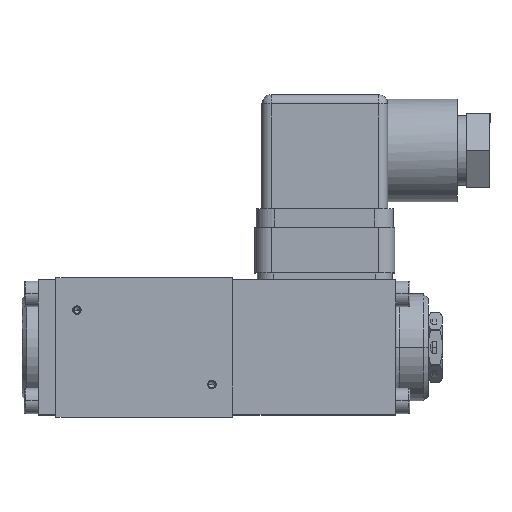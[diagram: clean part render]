
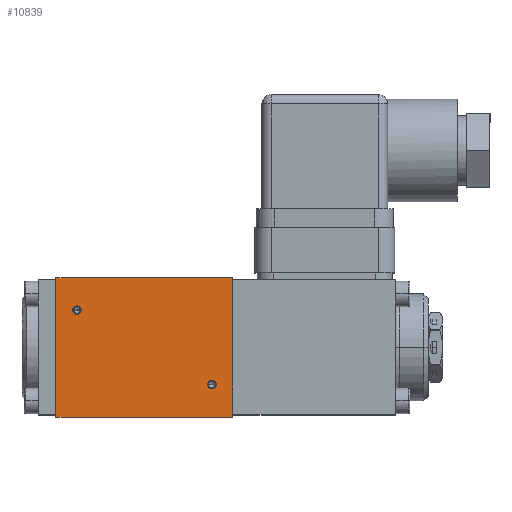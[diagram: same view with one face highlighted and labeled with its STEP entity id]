
A CAD part, top view. The second image highlights one B-rep face of the part: STEP entity #10839.
In plain terms, the highlighted planar face has unit normal (0, 0, 1).
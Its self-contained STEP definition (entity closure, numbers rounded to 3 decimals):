
#35 = ORIENTED_EDGE ( 'NONE', *, *, #38874, .F. ) ;
#768 = CIRCLE ( 'NONE', #1355, 0.9 ) ;
#1005 = ORIENTED_EDGE ( 'NONE', *, *, #32694, .F. ) ;
#1110 = ORIENTED_EDGE ( 'NONE', *, *, #26786, .F. ) ;
#1354 = CARTESIAN_POINT ( 'NONE',  ( 38.424, 30., 0. ) ) ;
#1355 = AXIS2_PLACEMENT_3D ( 'NONE', #6898, #40406, #11717 ) ;
#1476 = VERTEX_POINT ( 'NONE', #6261 ) ;
#3752 = EDGE_CURVE ( 'NONE', #40341, #8384, #3828, .T. ) ;
#3828 = LINE ( 'NONE', #5442, #40599 ) ;
#5424 = DIRECTION ( 'NONE',  ( 0., 1., 0. ) ) ;
#5442 = CARTESIAN_POINT ( 'NONE',  ( 0., -0.424, 0. ) ) ;
#6261 = CARTESIAN_POINT ( 'NONE',  ( 34.4, 7., 0. ) ) ;
#6318 = VERTEX_POINT ( 'NONE', #53308 ) ;
#6898 = CARTESIAN_POINT ( 'NONE',  ( 4.5, 23., 0. ) ) ;
#7127 = VERTEX_POINT ( 'NONE', #40420 ) ;
#8384 = VERTEX_POINT ( 'NONE', #29801 ) ;
#9413 = EDGE_CURVE ( 'NONE', #13293, #53425, #29178, .T. ) ;
#10409 = FACE_BOUND ( 'NONE', #43370, .T. ) ;
#10839 = ADVANCED_FACE ( 'NONE', ( #11916, #10409, #48701 ), #45199, .T. ) ;
#11717 = DIRECTION ( 'NONE',  ( 1., 0., 0. ) ) ;
#11916 = FACE_OUTER_BOUND ( 'NONE', #43675, .T. ) ;
#13293 = VERTEX_POINT ( 'NONE', #54934 ) ;
#14984 = CARTESIAN_POINT ( 'NONE',  ( 38., 30., 0. ) ) ;
#15443 = CIRCLE ( 'NONE', #38758, 0.9 ) ;
#17822 = DIRECTION ( 'NONE',  ( 1., 0., 0. ) ) ;
#17838 = DIRECTION ( 'NONE',  ( 0., 0., 1. ) ) ;
#17892 = CARTESIAN_POINT ( 'NONE',  ( 4.5, 23., 0. ) ) ;
#18142 = AXIS2_PLACEMENT_3D ( 'NONE', #24037, #24027, #23954 ) ;
#20010 = CARTESIAN_POINT ( 'NONE',  ( 38.424, 0., 0. ) ) ;
#20575 = DIRECTION ( 'NONE',  ( 0., 0., 1. ) ) ;
#20618 = CARTESIAN_POINT ( 'NONE',  ( 33.5, 7., 0. ) ) ;
#20937 = DIRECTION ( 'NONE',  ( -1., 0., 0. ) ) ;
#23270 = LINE ( 'NONE', #20010, #48798 ) ;
#23954 = DIRECTION ( 'NONE',  ( 1., 0., 0. ) ) ;
#24027 = DIRECTION ( 'NONE',  ( 0., 0., 1. ) ) ;
#24037 = CARTESIAN_POINT ( 'NONE',  ( 33.5, 7., 0. ) ) ;
#26786 = EDGE_CURVE ( 'NONE', #51593, #1476, #41786, .T. ) ;
#27648 = DIRECTION ( 'NONE',  ( 0., 1., 0. ) ) ;
#27741 = CARTESIAN_POINT ( 'NONE',  ( 38., -0.424, 0. ) ) ;
#29178 = LINE ( 'NONE', #27741, #53178 ) ;
#29801 = CARTESIAN_POINT ( 'NONE',  ( 0., 30., 0. ) ) ;
#30167 = DIRECTION ( 'NONE',  ( -1., 0., 0. ) ) ;
#30792 = EDGE_CURVE ( 'NONE', #7127, #6318, #15443, .T. ) ;
#32694 = EDGE_CURVE ( 'NONE', #1476, #51593, #38296, .T. ) ;
#32777 = EDGE_CURVE ( 'NONE', #13293, #40341, #23270, .T. ) ;
#34368 = EDGE_CURVE ( 'NONE', #53425, #8384, #42148, .T. ) ;
#34643 = CARTESIAN_POINT ( 'NONE',  ( 32.6, 7., 0. ) ) ;
#34698 = EDGE_LOOP ( 'NONE', ( #1005, #1110 ) ) ;
#38296 = CIRCLE ( 'NONE', #18142, 0.9 ) ;
#38758 = AXIS2_PLACEMENT_3D ( 'NONE', #17892, #17838, #17822 ) ;
#38874 = EDGE_CURVE ( 'NONE', #6318, #7127, #768, .T. ) ;
#40341 = VERTEX_POINT ( 'NONE', #45117 ) ;
#40406 = DIRECTION ( 'NONE',  ( 0., 0., 1. ) ) ;
#40420 = CARTESIAN_POINT ( 'NONE',  ( 5.4, 23., 0. ) ) ;
#40599 = VECTOR ( 'NONE', #5424, 1000. ) ;
#41786 = CIRCLE ( 'NONE', #44807, 0.9 ) ;
#42148 = LINE ( 'NONE', #1354, #54925 ) ;
#43370 = EDGE_LOOP ( 'NONE', ( #61113, #35 ) ) ;
#43675 = EDGE_LOOP ( 'NONE', ( #59431, #60033, #60148, #61046 ) ) ;
#44807 = AXIS2_PLACEMENT_3D ( 'NONE', #20618, #20575, #49988 ) ;
#45117 = CARTESIAN_POINT ( 'NONE',  ( 0., 0., 0. ) ) ;
#45199 = PLANE ( 'NONE',  #50609 ) ;
#46225 = CARTESIAN_POINT ( 'NONE',  ( 0., 0., 0. ) ) ;
#46301 = DIRECTION ( 'NONE',  ( 0., 0., 1. ) ) ;
#46380 = DIRECTION ( 'NONE',  ( 1., 0., 0. ) ) ;
#48701 = FACE_BOUND ( 'NONE', #34698, .T. ) ;
#48798 = VECTOR ( 'NONE', #20937, 1000. ) ;
#49988 = DIRECTION ( 'NONE',  ( 1., 0., 0. ) ) ;
#50609 = AXIS2_PLACEMENT_3D ( 'NONE', #46225, #46301, #46380 ) ;
#51593 = VERTEX_POINT ( 'NONE', #34643 ) ;
#53178 = VECTOR ( 'NONE', #27648, 1000. ) ;
#53308 = CARTESIAN_POINT ( 'NONE',  ( 3.6, 23., 0. ) ) ;
#53425 = VERTEX_POINT ( 'NONE', #14984 ) ;
#54925 = VECTOR ( 'NONE', #30167, 1000. ) ;
#54934 = CARTESIAN_POINT ( 'NONE',  ( 38., 0., 0. ) ) ;
#59431 = ORIENTED_EDGE ( 'NONE', *, *, #32777, .F. ) ;
#60033 = ORIENTED_EDGE ( 'NONE', *, *, #9413, .T. ) ;
#60148 = ORIENTED_EDGE ( 'NONE', *, *, #34368, .T. ) ;
#61046 = ORIENTED_EDGE ( 'NONE', *, *, #3752, .F. ) ;
#61113 = ORIENTED_EDGE ( 'NONE', *, *, #30792, .F. ) ;
